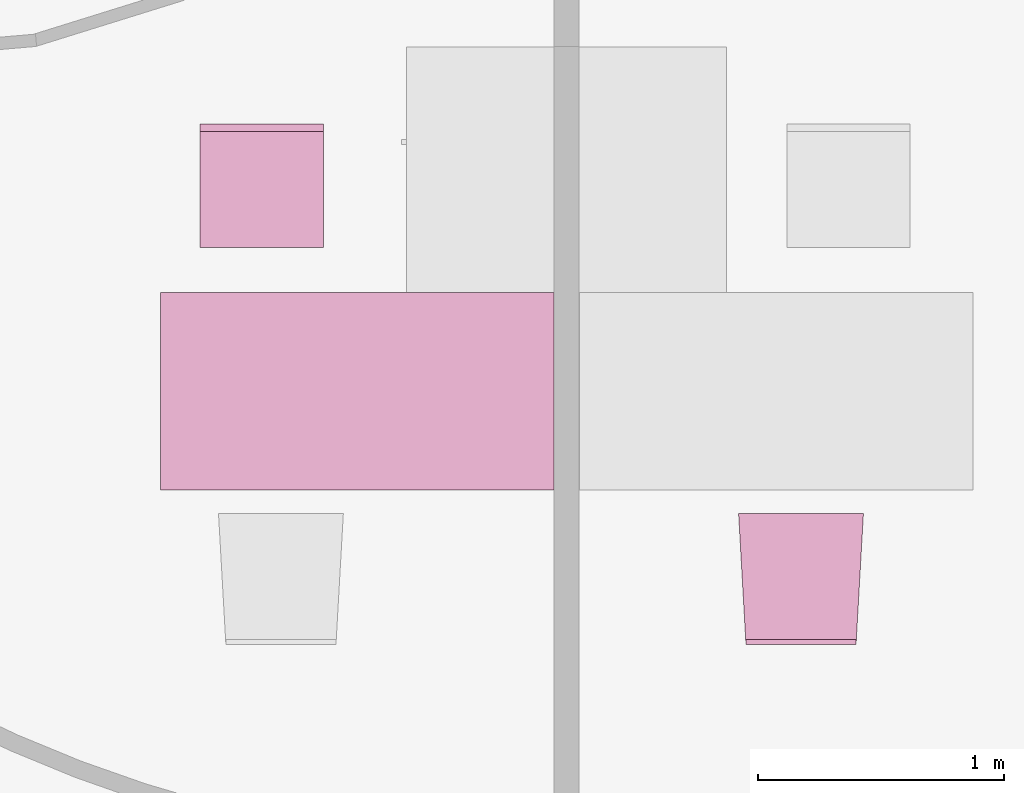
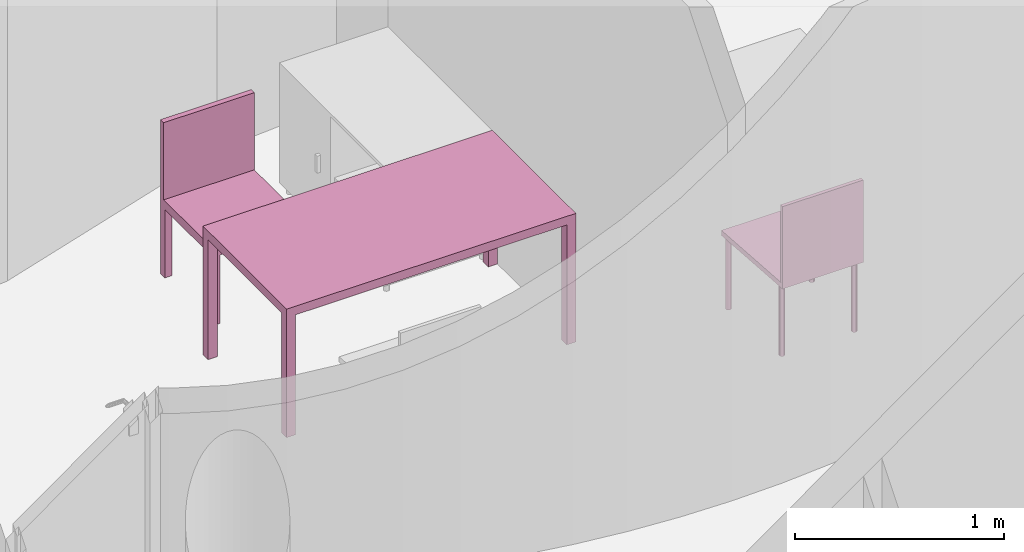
"""IFC4 building model written with IfcOpenShell, lengths in metres."""

import ifcopenshell
import ifcopenshell.guid

model = None  # the IFC model being written
_history = None  # IfcOwnerHistory: only IFC2X3 demands one
_inside = {}  # id of a spatial element -> (the spatial element, [elements in it])
_under = {}  # id of a project, library or spatial element -> (it, [spatial elements below it])
_declared = {}  # id of a project -> (the project, [libraries it declares])
_typed = {}  # id of a type object -> (the type object, [elements of that type])
_made_of = {}  # id of a material, layer set ... -> (it, [elements and type objects made of it])


def new_model(schema):
    """Start an empty IFC model of exactly this schema.

    Asked for "IFC4X3", IfcOpenShell would pick the latest addendum, in which some entities
    have other attributes; the version numbers below select the first issue.
    IFC2X3 requires an IfcOwnerHistory on every rooted entity: one is made here for all.
    """
    global model, _history
    if schema == "IFC4X3":
        model = ifcopenshell.file(schema_version=(4, 3, 0, 0))
    else:
        model = ifcopenshell.file(schema=schema)
    _inside.clear()
    _under.clear()
    _declared.clear()
    _typed.clear()
    _made_of.clear()
    _history = None
    if model.schema == "IFC2X3":
        org = make("IfcOrganization", Name="unknown")
        user = make(
            "IfcPersonAndOrganization",
            ThePerson=make("IfcPerson", FamilyName="unknown"),
            TheOrganization=org,
        )
        app = make(
            "IfcApplication",
            ApplicationDeveloper=org,
            Version="unknown",
            ApplicationFullName="unknown",
            ApplicationIdentifier="unknown",
        )
        _history = make(
            "IfcOwnerHistory",
            OwningUser=user,
            OwningApplication=app,
            ChangeAction="ADDED",
            CreationDate=0,
        )
    return model


def make(cls, **values):
    """One entity of the class cls with the attributes given. An attribute that is None is left unset."""
    return model.create_entity(
        cls, **{name: value for name, value in values.items() if value is not None}
    )


def entity(cls, *values):
    """Any entity or typed value of the class cls, its attributes in the order of the schema. None: left unset."""
    e = model.create_entity(cls)
    for i, value in enumerate(values):
        if value is not None:
            e[i] = value
    return e


def rooted(cls, **values):
    """An entity with a GlobalId (a new one), such as an element, a storey or a relation."""
    return make(cls, GlobalId=ifcopenshell.guid.new(), OwnerHistory=_history, **values)


def si_unit(unit_type, name, prefix=None):
    """IfcSIUnit, for example si_unit("LENGTHUNIT", "METRE", prefix="MILLI")."""
    return make("IfcSIUnit", UnitType=unit_type, Prefix=prefix, Name=name)


def converted_unit(unit_type, name, factor, base, dimensions=None, offset=None):
    """IfcConversionBasedUnit, such as the inch: factor (a typed value) times the base unit."""
    return make(
        "IfcConversionBasedUnit"
        if offset is None
        else "IfcConversionBasedUnitWithOffset",
        ConversionOffset=offset,
        Dimensions=None
        if dimensions is None
        else entity("IfcDimensionalExponents", *dimensions),
        UnitType=unit_type,
        Name=name,
        ConversionFactor=make(
            "IfcMeasureWithUnit", ValueComponent=factor, UnitComponent=base
        ),
    )


def derived_unit(unit_type, elements):
    """IfcDerivedUnit: a product of units, each with its exponent."""
    return make(
        "IfcDerivedUnit",
        Elements=[
            make("IfcDerivedUnitElement", Unit=unit, Exponent=power)
            for unit, power in elements
        ],
        UnitType=unit_type,
    )


def assignment(units):
    """IfcUnitAssignment: the units of a project."""
    return None if units is None else make("IfcUnitAssignment", Units=units)


def point(xyz):
    """IfcCartesianPoint."""
    return None if xyz is None else make("IfcCartesianPoint", Coordinates=xyz)


def direction(xyz):
    """IfcDirection."""
    return None if xyz is None else make("IfcDirection", DirectionRatios=xyz)


def frame(location, z_axis=None, x_axis=None):
    """IfcAxis2Placement3D, a coordinate frame: its origin and axes. An axis left out is left unset."""
    return make(
        "IfcAxis2Placement3D",
        Location=point(location),
        Axis=direction(z_axis),
        RefDirection=direction(x_axis),
    )


def origin():
    """The frame at (0, 0, 0) with its axes left unset."""
    return frame((0.0, 0.0, 0.0))


def place(relative_to, where):
    """IfcLocalPlacement: puts the frame where relative to a parent placement (None: the world)."""
    return make(
        "IfcLocalPlacement", PlacementRelTo=relative_to, RelativePlacement=where
    )


def context(
    kind, dimensions, precision=None, world=None, true_north=None, identifier=None
):
    """IfcGeometricRepresentationContext, for example the 3D "Model" context."""
    return make(
        "IfcGeometricRepresentationContext",
        ContextIdentifier=identifier,
        ContextType=kind,
        CoordinateSpaceDimension=dimensions,
        Precision=precision,
        WorldCoordinateSystem=world,
        TrueNorth=true_north,
    )


def subcontext(parent, identifier, kind, view, scale=None):
    """IfcGeometricRepresentationSubContext, for example "Body" below "Model"."""
    return make(
        "IfcGeometricRepresentationSubContext",
        ContextIdentifier=identifier,
        ContextType=kind,
        ParentContext=parent,
        TargetScale=scale,
        TargetView=view,
    )


def project(units=None, contexts=None):
    """IfcProject with its units and contexts."""
    return rooted(
        "IfcProject",
        Name="project",
        RepresentationContexts=contexts,
        UnitsInContext=assignment(units),
    )


def spatial(cls, under=None, at=None, **own):
    """A site, building, storey or space (cls), placed at a placement, below another one or the project."""
    s = rooted(cls, ObjectPlacement=at, **own)
    if under is not None:
        _under.setdefault(under.id(), (under, []))[1].append(s)
    return s


def faces_of(points, faces, orient=None, outer=None):
    """IfcFace entities. A face is a list of loops; a loop is a list of indices into points, from 0.

    orient and outer hold one flag for each loop. By default every Orientation is true, the
    first loop of a face is its IfcFaceOuterBound and the others are IfcFaceBound.
    """
    made = []
    for i, loops in enumerate(faces):
        bounds = []
        for j, loop in enumerate(loops):
            is_outer = j == 0 if outer is None else outer[i][j]
            bounds.append(
                make(
                    "IfcFaceOuterBound" if is_outer else "IfcFaceBound",
                    Bound=make("IfcPolyLoop", Polygon=[points[k] for k in loop]),
                    Orientation=True if orient is None else orient[i][j],
                )
            )
        made.append(make("IfcFace", Bounds=bounds))
    return made


def faceted_brep(points, faces, orient=None, outer=None, voids=None):
    """IfcFacetedBrep: a solid bounded by flat faces; with voids (closed shells), ...WithVoids."""
    shared = [point(p) for p in points]
    hull = make("IfcClosedShell", CfsFaces=faces_of(shared, faces, orient, outer))
    if voids is None:
        return make("IfcFacetedBrep", Outer=hull)
    return make(
        "IfcFacetedBrepWithVoids",
        Outer=hull,
        Voids=[
            make(cls, CfsFaces=faces_of(shared, fs, o, b)) for cls, fs, o, b in voids
        ],
    )


def shape(context_of_items, identifier, shape_type, items):
    """IfcShapeRepresentation: the items that make up one representation, for example the "Body"."""
    return make(
        "IfcShapeRepresentation",
        ContextOfItems=context_of_items,
        RepresentationIdentifier=identifier,
        RepresentationType=shape_type,
        Items=items,
    )


def made_of(thing, what):
    """Note that an element or type object is made of a material, layer set ...; save() writes the relation."""
    if what is not None:
        _made_of.setdefault(what.id(), (what, []))[1].append(thing)
    return thing


def element(
    cls,
    number,
    at=None,
    inside=None,
    cuts=None,
    type_object=None,
    material=None,
    context=None,
    identifier="Body",
    shape_type=None,
    held_by="IfcProductDefinitionShape",
    body=None,
    shapes=None,
    **own,
):
    """One element of the class cls, such as IfcWall. Its Tag is "e" and its number.

    at: its placement. inside: the storey or other place that contains it. cuts: it is an
    opening in that element (IfcRelVoidsElement). A single representation is given by context,
    identifier, shape_type and body (its items); several are given by shapes. held_by: the class
    of the entity that holds the representations. save() writes the other relations.
    """
    e = rooted(cls, Tag="e%d" % number, ObjectPlacement=at, **own)
    if body is not None:
        shapes = [shape(context, identifier, shape_type, body)]
    if shapes is not None:
        e.Representation = make(held_by, Representations=shapes)
    if inside is not None:
        _inside.setdefault(inside.id(), (inside, []))[1].append(e)
    if cuts is not None:
        rooted(
            "IfcRelVoidsElement", RelatingBuildingElement=cuts, RelatedOpeningElement=e
        )
    if type_object is not None:
        _typed.setdefault(type_object.id(), (type_object, []))[1].append(e)
    return made_of(e, material)


def aggregate(whole, parts):
    """IfcRelAggregates: a whole, such as a stair, and the parts it consists of."""
    return rooted("IfcRelAggregates", RelatingObject=whole, RelatedObjects=parts)


def save(model, path):
    """Write the relations noted so far, then the file.

    IfcRelAggregates (storeys below a building ...), IfcRelContainedInSpatialStructure (elements
    in a storey), IfcRelDefinesByType, IfcRelAssociatesMaterial and IfcRelDeclares: one each for
    every whole, place, type object, material and project.
    """
    for whole, parts in _under.values():
        aggregate(whole, parts)
    for where, things in _inside.values():
        rooted(
            "IfcRelContainedInSpatialStructure",
            RelatedElements=things,
            RelatingStructure=where,
        )
    for kind, things in _typed.values():
        rooted("IfcRelDefinesByType", RelatedObjects=things, RelatingType=kind)
    for what, things in _made_of.values():
        rooted("IfcRelAssociatesMaterial", RelatedObjects=things, RelatingMaterial=what)
    for by, libraries in _declared.values():
        rooted("IfcRelDeclares", RelatingContext=by, RelatedDefinitions=libraries)
    model.write(path)


model = new_model("IFC4")

# Units and contexts
model_context = context("Model", 3, precision=1e-05, world=origin())
body_context = subcontext(model_context, "Body", "Model", "MODEL_VIEW")
ifc_project = project(units=[si_unit("LENGTHUNIT", "METRE"), si_unit("AREAUNIT", "SQUARE_METRE"), si_unit("VOLUMEUNIT", "CUBIC_METRE"), si_unit("MASSUNIT", "GRAM", prefix="KILO"), converted_unit("PLANEANGLEUNIT", "DEGREE", entity("IfcPlaneAngleMeasure", 0.0174532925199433), si_unit("PLANEANGLEUNIT", "RADIAN"), dimensions=[0, 0, 0, 0, 0, 0, 0]), derived_unit("THERMALTRANSMITTANCEUNIT", [(si_unit("POWERUNIT", "WATT"), 1), (si_unit("THERMODYNAMICTEMPERATUREUNIT", "KELVIN"), -1), (si_unit("LENGTHUNIT", "METRE"), -2)]), derived_unit("VOLUMETRICFLOWRATEUNIT", [(si_unit("LENGTHUNIT", "METRE"), 3), (converted_unit("TIMEUNIT", "hour", entity("IfcTimeMeasure", 3600.0), si_unit("TIMEUNIT", "SECOND"), dimensions=[0, 0, 1, 0, 0, 0, 0]), -1), (si_unit("LENGTHUNIT", "METRE"), -1)])], contexts=[model_context])

# Building, storeys
building_placement = place(None, origin())
building = spatial("IfcBuilding", under=ifc_project, at=building_placement, Name="HABITATGE PLURIFAMILIAR", CompositionType="ELEMENT")
storey_1_placement = place(building_placement, frame((0.0, 0.0, 6.25)))
storey_1 = spatial("IfcBuildingStorey", under=building, at=storey_1_placement, Name="PLANTA PRIMERA", CompositionType="ELEMENT", Elevation=6.25)
storey_2_placement = place(storey_1_placement, frame((0.0, 0.0, 3.35)))
storey_2 = spatial("IfcBuildingStorey", under=storey_1, at=storey_2_placement, Name="NOU", CompositionType="PARTIAL")

# Furniture
furniture_1_placement = place(storey_2_placement, frame((414.054625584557, 18.3927228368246, -3.35114412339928)))
element("IfcFurniture", 1, at=furniture_1_placement, inside=storey_2, Name="Cadira confient_P1", context=body_context, shape_type="Brep", body=[
    faceted_brep([(0.00928777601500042, 0.507575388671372, 0.0), (0.00950344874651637, 0.504980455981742, 0.0), (0.0101664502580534, 0.502462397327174, 0.0), (0.0112566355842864, 0.500097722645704, 0.0), (0.0127408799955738, 0.497958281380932, 0.0), (0.01457408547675, 0.496109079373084, 0.0), (0.0167005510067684, 0.494606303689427, 0.0), (0.0190556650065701, 0.493495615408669, 0.0), (0.021567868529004, 0.492810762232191, 0.0), (0.0241608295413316, 0.492572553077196, 0.0), (0.0267557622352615, 0.492788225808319, 0.0), (0.0292738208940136, 0.493451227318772, 0.0), (0.0316384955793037, 0.49454141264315, 0.0), (0.0337779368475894, 0.496025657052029, 0.0), (0.0356271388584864, 0.497858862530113, 0.0), (0.0371299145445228, 0.499985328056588, 0.0), (0.0382406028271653, 0.502340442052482, 0.0), (0.0389254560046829, 0.504852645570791, 0.0), (0.0391636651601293, 0.507445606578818, 0.0), (0.0389479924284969, 0.510040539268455, 0.0), (0.0382849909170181, 0.512558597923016, 0.0), (0.0371948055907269, 0.514923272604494, 0.0), (0.0357105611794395, 0.517062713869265, 0.0), (0.0338773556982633, 0.518911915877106, 0.0), (0.0317508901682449, 0.520414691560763, 0.0), (0.0293957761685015, 0.521525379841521, 0.0), (0.0268835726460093, 0.522210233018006, 0.0), (0.0242906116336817, 0.522448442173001, 0.0), (0.0216956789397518, 0.522232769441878, 0.0), (0.0191776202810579, 0.521569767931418, 0.0), (0.0168129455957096, 0.52047958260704, 0.0), (0.0146735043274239, 0.518995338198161, 0.0), (0.0128243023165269, 0.517162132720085, 0.0), (0.0113215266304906, 0.51503566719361, 0.0), (0.0102108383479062, 0.512680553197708, 0.0), (0.00952598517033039, 0.510168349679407, 0.0), (0.00928777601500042, 0.507575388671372, 0.448281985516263), (0.00952598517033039, 0.510168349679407, 0.448281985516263), (0.0102108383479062, 0.512680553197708, 0.448281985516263), (0.0113215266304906, 0.51503566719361, 0.448281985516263), (0.0128243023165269, 0.517162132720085, 0.448281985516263), (0.0146735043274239, 0.518995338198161, 0.448281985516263), (0.0168129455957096, 0.52047958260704, 0.448281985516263), (0.0191776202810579, 0.521569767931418, 0.448281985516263), (0.0216956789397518, 0.522232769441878, 0.448281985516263), (0.0242906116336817, 0.522448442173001, 0.448281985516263), (0.0268835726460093, 0.522210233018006, 0.448281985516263), (0.0293957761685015, 0.521525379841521, 0.448281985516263), (0.0317508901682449, 0.520414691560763, 0.448281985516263), (0.0338773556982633, 0.518911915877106, 0.448281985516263), (0.0357105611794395, 0.517062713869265, 0.448281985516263), (0.0371948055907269, 0.514923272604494, 0.448281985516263), (0.0382849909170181, 0.512558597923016, 0.448281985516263), (0.0389479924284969, 0.510040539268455, 0.448281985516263), (0.0391636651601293, 0.507445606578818, 0.448281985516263), (0.0389254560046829, 0.504852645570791, 0.448281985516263), (0.0382406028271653, 0.502340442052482, 0.448281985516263), (0.0371299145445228, 0.499985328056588, 0.448281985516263), (0.0356271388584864, 0.497858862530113, 0.448281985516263), (0.0337779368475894, 0.496025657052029, 0.448281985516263), (0.0316384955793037, 0.49454141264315, 0.448281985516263), (0.0292738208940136, 0.493451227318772, 0.448281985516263), (0.0267557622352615, 0.492788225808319, 0.448281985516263), (0.0241608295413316, 0.492572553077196, 0.448281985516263), (0.021567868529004, 0.492810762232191, 0.448281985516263), (0.0190556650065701, 0.493495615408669, 0.448281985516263), (0.0167005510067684, 0.494606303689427, 0.448281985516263), (0.01457408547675, 0.496109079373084, 0.448281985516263), (0.0127408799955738, 0.497958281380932, 0.448281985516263), (0.0112566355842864, 0.500097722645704, 0.448281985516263), (0.0101664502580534, 0.502462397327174, 0.448281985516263), (0.00950344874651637, 0.504980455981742, 0.448281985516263)], [[[0, 1, 2, 3, 4, 5, 6, 7, 8, 9, 10, 11, 12, 13, 14, 15, 16, 17, 18, 19, 20, 21, 22, 23, 24, 25, 26, 27, 28, 29, 30, 31, 32, 33, 34, 35]], [[36, 37, 38, 39, 40, 41, 42, 43, 44, 45, 46, 47, 48, 49, 50, 51, 52, 53, 54, 55, 56, 57, 58, 59, 60, 61, 62, 63, 64, 65, 66, 67, 68, 69, 70, 71]], [[1, 0, 36, 71]], [[2, 1, 71, 70]], [[3, 2, 70, 69]], [[4, 3, 69, 68]], [[5, 4, 68, 67]], [[6, 5, 67, 66]], [[7, 6, 66, 65]], [[8, 7, 65, 64]], [[9, 8, 64, 63]], [[10, 9, 63, 62]], [[11, 10, 62, 61]], [[12, 11, 61, 60]], [[13, 12, 60, 59]], [[14, 13, 59, 58]], [[15, 14, 58, 57]], [[16, 15, 57, 56]], [[17, 16, 56, 55]], [[18, 17, 55, 54]], [[19, 18, 54, 53]], [[20, 19, 53, 52]], [[21, 20, 52, 51]], [[22, 21, 51, 50]], [[23, 22, 50, 49]], [[24, 23, 49, 48]], [[25, 24, 48, 47]], [[26, 25, 47, 46]], [[27, 26, 46, 45]], [[28, 27, 45, 44]], [[29, 28, 44, 43]], [[30, 29, 43, 42]], [[31, 30, 42, 41]], [[32, 31, 41, 40]], [[33, 32, 40, 39]], [[34, 33, 39, 38]], [[35, 34, 38, 37]], [[0, 35, 37, 36]]], orient=[[False], [False], [False], [False], [False], [False], [False], [False], [False], [False], [False], [False], [False], [False], [False], [False], [False], [False], [False], [False], [False], [False], [False], [False], [False], [False], [False], [False], [False], [False], [False], [False], [False], [False], [False], [False], [False], [False]]),
    faceted_brep([(0.0369257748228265, 0.0451683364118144, 0.0), (0.0371414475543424, 0.0425734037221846, 0.0), (0.0378044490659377, 0.0400553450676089, 0.0), (0.0388946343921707, 0.0376906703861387, 0.0), (0.0403788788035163, 0.0355512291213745, 0.0), (0.0422120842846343, 0.0337020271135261, 0.0), (0.0443385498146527, 0.032199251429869, 0.0), (0.0466936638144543, 0.031088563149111, 0.0), (0.0492058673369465, 0.0304037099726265, 0.0), (0.0517988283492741, 0.0301655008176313, 0.0), (0.0543937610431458, 0.0303811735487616, 0.0), (0.0569118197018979, 0.0310441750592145, 0.0), (0.0592764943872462, 0.0321343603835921, 0.0), (0.0614159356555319, 0.0336186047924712, 0.0), (0.0632651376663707, 0.0354518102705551, 0.0), (0.0647679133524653, 0.0375782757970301, 0.0), (0.0658786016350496, 0.0399333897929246, 0.0), (0.0665634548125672, 0.0424455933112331, 0.0), (0.0668016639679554, 0.0450385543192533, 0.0), (0.0665859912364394, 0.0476334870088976, 0.0), (0.0659229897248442, 0.0501515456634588, 0.0), (0.0648328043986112, 0.052516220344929, 0.0), (0.0633485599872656, 0.0546556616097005, 0.0), (0.0615153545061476, 0.0565048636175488, 0.0), (0.0593888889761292, 0.0580076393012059, 0.0), (0.0570337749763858, 0.059118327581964, 0.0), (0.0545215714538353, 0.0598031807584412, 0.0), (0.051928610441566, 0.0600413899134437, 0.0), (0.0493336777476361, 0.0598257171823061, 0.0), (0.0468156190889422, 0.0591627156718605, 0.0), (0.0444509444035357, 0.0580725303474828, 0.0), (0.04231150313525, 0.0565882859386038, 0.0), (0.0404623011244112, 0.0547550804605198, 0.0), (0.0389595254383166, 0.0526286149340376, 0.0), (0.0378488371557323, 0.0502735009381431, 0.0), (0.0371639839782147, 0.0477612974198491, 0.0), (0.0369257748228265, 0.0451683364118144, 0.448281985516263), (0.0371639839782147, 0.0477612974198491, 0.448281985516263), (0.0378488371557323, 0.0502735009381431, 0.448281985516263), (0.0389595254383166, 0.0526286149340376, 0.448281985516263), (0.0404623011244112, 0.0547550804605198, 0.448281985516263), (0.04231150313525, 0.0565882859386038, 0.448281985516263), (0.0444509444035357, 0.0580725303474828, 0.448281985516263), (0.0468156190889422, 0.0591627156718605, 0.448281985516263), (0.0493336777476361, 0.0598257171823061, 0.448281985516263), (0.051928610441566, 0.0600413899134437, 0.448281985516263), (0.0545215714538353, 0.0598031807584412, 0.448281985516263), (0.0570337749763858, 0.059118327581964, 0.448281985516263), (0.0593888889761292, 0.0580076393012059, 0.448281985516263), (0.0615153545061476, 0.0565048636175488, 0.448281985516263), (0.0633485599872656, 0.0546556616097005, 0.448281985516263), (0.0648328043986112, 0.052516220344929, 0.448281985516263), (0.0659229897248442, 0.0501515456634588, 0.448281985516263), (0.0665859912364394, 0.0476334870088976, 0.448281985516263), (0.0668016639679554, 0.0450385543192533, 0.448281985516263), (0.0665634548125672, 0.0424455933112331, 0.448281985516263), (0.0658786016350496, 0.0399333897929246, 0.448281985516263), (0.0647679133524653, 0.0375782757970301, 0.448281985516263), (0.0632651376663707, 0.0354518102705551, 0.448281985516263), (0.0614159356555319, 0.0336186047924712, 0.448281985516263), (0.0592764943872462, 0.0321343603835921, 0.448281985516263), (0.0569118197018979, 0.0310441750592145, 0.448281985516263), (0.0543937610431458, 0.0303811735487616, 0.448281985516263), (0.0517988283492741, 0.0301655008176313, 0.448281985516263), (0.0492058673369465, 0.0304037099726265, 0.448281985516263), (0.0466936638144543, 0.031088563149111, 0.448281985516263), (0.0443385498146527, 0.032199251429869, 0.448281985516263), (0.0422120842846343, 0.0337020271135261, 0.448281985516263), (0.0403788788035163, 0.0355512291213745, 0.448281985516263), (0.0388946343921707, 0.0376906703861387, 0.448281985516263), (0.0378044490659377, 0.0400553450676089, 0.448281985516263), (0.0371414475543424, 0.0425734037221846, 0.448281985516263)], [[[0, 1, 2, 3, 4, 5, 6, 7, 8, 9, 10, 11, 12, 13, 14, 15, 16, 17, 18, 19, 20, 21, 22, 23, 24, 25, 26, 27, 28, 29, 30, 31, 32, 33, 34, 35]], [[36, 37, 38, 39, 40, 41, 42, 43, 44, 45, 46, 47, 48, 49, 50, 51, 52, 53, 54, 55, 56, 57, 58, 59, 60, 61, 62, 63, 64, 65, 66, 67, 68, 69, 70, 71]], [[1, 0, 36, 71]], [[2, 1, 71, 70]], [[3, 2, 70, 69]], [[4, 3, 69, 68]], [[5, 4, 68, 67]], [[6, 5, 67, 66]], [[7, 6, 66, 65]], [[8, 7, 65, 64]], [[9, 8, 64, 63]], [[10, 9, 63, 62]], [[11, 10, 62, 61]], [[12, 11, 61, 60]], [[13, 12, 60, 59]], [[14, 13, 59, 58]], [[15, 14, 58, 57]], [[16, 15, 57, 56]], [[17, 16, 56, 55]], [[18, 17, 55, 54]], [[19, 18, 54, 53]], [[20, 19, 53, 52]], [[21, 20, 52, 51]], [[22, 21, 51, 50]], [[23, 22, 50, 49]], [[24, 23, 49, 48]], [[25, 24, 48, 47]], [[26, 25, 47, 46]], [[27, 26, 46, 45]], [[28, 27, 45, 44]], [[29, 28, 44, 43]], [[30, 29, 43, 42]], [[31, 30, 42, 41]], [[32, 31, 41, 40]], [[33, 32, 40, 39]], [[34, 33, 39, 38]], [[35, 34, 38, 37]], [[0, 35, 37, 36]]], orient=[[False], [False], [False], [False], [False], [False], [False], [False], [False], [False], [False], [False], [False], [False], [False], [False], [False], [False], [False], [False], [False], [False], [False], [False], [False], [False], [False], [False], [False], [False], [False], [False], [False], [False], [False], [False], [False], [False]]),
    faceted_brep([(0.469287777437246, 0.507575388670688, 0.0), (0.469503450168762, 0.504980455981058, 0.0), (0.470166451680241, 0.50246239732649, 0.0), (0.471256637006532, 0.50009772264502, 0.0), (0.47274088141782, 0.497958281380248, 0.0), (0.474574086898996, 0.4961090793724, 0.0), (0.476700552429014, 0.494606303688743, 0.0), (0.479055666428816, 0.493495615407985, 0.0), (0.48156786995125, 0.492810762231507, 0.0), (0.484160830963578, 0.492572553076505, 0.0), (0.486755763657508, 0.492788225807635, 0.0), (0.48927382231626, 0.493451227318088, 0.0), (0.49163849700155, 0.494541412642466, 0.0), (0.493777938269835, 0.496025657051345, 0.0), (0.495627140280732, 0.497858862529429, 0.0), (0.497129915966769, 0.499985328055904, 0.0), (0.498240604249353, 0.502340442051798, 0.0), (0.498925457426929, 0.504852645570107, 0.0), (0.499163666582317, 0.507445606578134, 0.0), (0.498947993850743, 0.510040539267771, 0.0), (0.498284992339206, 0.512558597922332, 0.0), (0.497194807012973, 0.51492327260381, 0.0), (0.495710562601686, 0.517062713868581, 0.0), (0.493877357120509, 0.518911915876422, 0.0), (0.491750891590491, 0.52041469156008, 0.0), (0.489395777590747, 0.521525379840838, 0.0), (0.486883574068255, 0.522210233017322, 0.0), (0.484290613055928, 0.522448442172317, 0.0), (0.481695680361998, 0.522232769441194, 0.0), (0.479177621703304, 0.521569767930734, 0.0), (0.476812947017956, 0.520479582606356, 0.0), (0.47467350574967, 0.518995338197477, 0.0), (0.472824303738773, 0.517162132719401, 0.0), (0.471321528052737, 0.515035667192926, 0.0), (0.470210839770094, 0.512680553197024, 0.0), (0.469525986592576, 0.510168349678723, 0.0), (0.469287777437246, 0.507575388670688, 0.448281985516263), (0.469525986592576, 0.510168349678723, 0.448281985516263), (0.470210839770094, 0.512680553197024, 0.448281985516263), (0.471321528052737, 0.515035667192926, 0.448281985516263), (0.472824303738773, 0.517162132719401, 0.448281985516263), (0.47467350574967, 0.518995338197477, 0.448281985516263), (0.476812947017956, 0.520479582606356, 0.448281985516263), (0.479177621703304, 0.521569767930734, 0.448281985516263), (0.481695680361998, 0.522232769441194, 0.448281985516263), (0.484290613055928, 0.522448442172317, 0.448281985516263), (0.486883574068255, 0.522210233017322, 0.448281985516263), (0.489395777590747, 0.521525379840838, 0.448281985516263), (0.491750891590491, 0.52041469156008, 0.448281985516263), (0.493877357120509, 0.518911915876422, 0.448281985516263), (0.495710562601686, 0.517062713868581, 0.448281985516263), (0.497194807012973, 0.51492327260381, 0.448281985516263), (0.498284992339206, 0.512558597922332, 0.448281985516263), (0.498947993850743, 0.510040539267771, 0.448281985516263), (0.499163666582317, 0.507445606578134, 0.448281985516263), (0.498925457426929, 0.504852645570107, 0.448281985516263), (0.498240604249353, 0.502340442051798, 0.448281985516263), (0.497129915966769, 0.499985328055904, 0.448281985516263), (0.495627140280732, 0.497858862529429, 0.448281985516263), (0.493777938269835, 0.496025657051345, 0.448281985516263), (0.49163849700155, 0.494541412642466, 0.448281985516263), (0.48927382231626, 0.493451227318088, 0.448281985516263), (0.486755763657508, 0.492788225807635, 0.448281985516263), (0.484160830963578, 0.492572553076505, 0.448281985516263), (0.48156786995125, 0.492810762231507, 0.448281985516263), (0.479055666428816, 0.493495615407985, 0.448281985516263), (0.476700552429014, 0.494606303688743, 0.448281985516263), (0.474574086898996, 0.4961090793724, 0.448281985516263), (0.47274088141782, 0.497958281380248, 0.448281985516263), (0.471256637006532, 0.50009772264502, 0.448281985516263), (0.470166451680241, 0.50246239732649, 0.448281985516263), (0.469503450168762, 0.504980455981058, 0.448281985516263)], [[[0, 1, 2, 3, 4, 5, 6, 7, 8, 9, 10, 11, 12, 13, 14, 15, 16, 17, 18, 19, 20, 21, 22, 23, 24, 25, 26, 27, 28, 29, 30, 31, 32, 33, 34, 35]], [[36, 37, 38, 39, 40, 41, 42, 43, 44, 45, 46, 47, 48, 49, 50, 51, 52, 53, 54, 55, 56, 57, 58, 59, 60, 61, 62, 63, 64, 65, 66, 67, 68, 69, 70, 71]], [[1, 0, 36, 71]], [[2, 1, 71, 70]], [[3, 2, 70, 69]], [[4, 3, 69, 68]], [[5, 4, 68, 67]], [[6, 5, 67, 66]], [[7, 6, 66, 65]], [[8, 7, 65, 64]], [[9, 8, 64, 63]], [[10, 9, 63, 62]], [[11, 10, 62, 61]], [[12, 11, 61, 60]], [[13, 12, 60, 59]], [[14, 13, 59, 58]], [[15, 14, 58, 57]], [[16, 15, 57, 56]], [[17, 16, 56, 55]], [[18, 17, 55, 54]], [[19, 18, 54, 53]], [[20, 19, 53, 52]], [[21, 20, 52, 51]], [[22, 21, 51, 50]], [[23, 22, 50, 49]], [[24, 23, 49, 48]], [[25, 24, 48, 47]], [[26, 25, 47, 46]], [[27, 26, 46, 45]], [[28, 27, 45, 44]], [[29, 28, 44, 43]], [[30, 29, 43, 42]], [[31, 30, 42, 41]], [[32, 31, 41, 40]], [[33, 32, 40, 39]], [[34, 33, 39, 38]], [[35, 34, 38, 37]], [[0, 35, 37, 36]]], orient=[[False], [False], [False], [False], [False], [False], [False], [False], [False], [False], [False], [False], [False], [False], [False], [False], [False], [False], [False], [False], [False], [False], [False], [False], [False], [False], [False], [False], [False], [False], [False], [False], [False], [False], [False], [False], [False], [False]]),
    faceted_brep([(0.436925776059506, 0.0451683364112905, 0.0), (0.437141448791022, 0.0425734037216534, 0.0), (0.437804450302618, 0.040055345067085, 0.0), (0.438894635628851, 0.0376906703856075, 0.0), (0.440378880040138, 0.0355512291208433, 0.0), (0.442212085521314, 0.033702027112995, 0.0), (0.444338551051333, 0.0321992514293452, 0.0), (0.446693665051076, 0.0310885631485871, 0.0), (0.449205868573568, 0.0304037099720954, 0.0), (0.451798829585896, 0.0301655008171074, 0.0), (0.454393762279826, 0.0303811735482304, 0.0), (0.45691182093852, 0.0310441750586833, 0.0), (0.459276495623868, 0.032134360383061, 0.0), (0.461415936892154, 0.0336186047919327, 0.0), (0.463265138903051, 0.0354518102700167, 0.0), (0.464767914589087, 0.0375782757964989, 0.0), (0.46587860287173, 0.0399333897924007, 0.0), (0.466563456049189, 0.0424455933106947, 0.0), (0.466801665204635, 0.0450385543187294, 0.0), (0.466585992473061, 0.0476334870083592, 0.0), (0.465922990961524, 0.0501515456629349, 0.0), (0.464832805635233, 0.0525162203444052, 0.0), (0.463348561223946, 0.0546556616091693, 0.0), (0.461515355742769, 0.0565048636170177, 0.0), (0.459388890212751, 0.0580076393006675, 0.0), (0.457033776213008, 0.0591183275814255, 0.0), (0.454521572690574, 0.0598031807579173, 0.0), (0.451928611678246, 0.0600413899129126, 0.0), (0.449333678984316, 0.0598257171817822, 0.0), (0.446815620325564, 0.0591627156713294, 0.0), (0.444450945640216, 0.0580725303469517, 0.0), (0.44231150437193, 0.0565882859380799, 0.0), (0.440462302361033, 0.054755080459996, 0.0), (0.438959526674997, 0.0526286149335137, 0.0), (0.437848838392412, 0.0502735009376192, 0.0), (0.437163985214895, 0.047761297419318, 0.0), (0.436925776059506, 0.0451683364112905, 0.448281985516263), (0.437163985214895, 0.047761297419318, 0.448281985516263), (0.437848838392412, 0.0502735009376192, 0.448281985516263), (0.438959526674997, 0.0526286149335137, 0.448281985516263), (0.440462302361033, 0.054755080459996, 0.448281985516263), (0.44231150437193, 0.0565882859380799, 0.448281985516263), (0.444450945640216, 0.0580725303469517, 0.448281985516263), (0.446815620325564, 0.0591627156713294, 0.448281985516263), (0.449333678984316, 0.0598257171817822, 0.448281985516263), (0.451928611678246, 0.0600413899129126, 0.448281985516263), (0.454521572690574, 0.0598031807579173, 0.448281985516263), (0.457033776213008, 0.0591183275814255, 0.448281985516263), (0.459388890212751, 0.0580076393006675, 0.448281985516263), (0.461515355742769, 0.0565048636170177, 0.448281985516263), (0.463348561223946, 0.0546556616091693, 0.448281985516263), (0.464832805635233, 0.0525162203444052, 0.448281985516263), (0.465922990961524, 0.0501515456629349, 0.448281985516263), (0.466585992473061, 0.0476334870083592, 0.448281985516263), (0.466801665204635, 0.0450385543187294, 0.448281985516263), (0.466563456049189, 0.0424455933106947, 0.448281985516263), (0.46587860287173, 0.0399333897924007, 0.448281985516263), (0.464767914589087, 0.0375782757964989, 0.448281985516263), (0.463265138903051, 0.0354518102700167, 0.448281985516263), (0.461415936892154, 0.0336186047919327, 0.448281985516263), (0.459276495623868, 0.032134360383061, 0.448281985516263), (0.45691182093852, 0.0310441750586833, 0.448281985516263), (0.454393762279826, 0.0303811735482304, 0.448281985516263), (0.451798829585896, 0.0301655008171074, 0.448281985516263), (0.449205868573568, 0.0304037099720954, 0.448281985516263), (0.446693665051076, 0.0310885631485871, 0.448281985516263), (0.444338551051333, 0.0321992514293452, 0.448281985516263), (0.442212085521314, 0.033702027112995, 0.448281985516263), (0.440378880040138, 0.0355512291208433, 0.448281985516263), (0.438894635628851, 0.0376906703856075, 0.448281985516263), (0.437804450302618, 0.040055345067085, 0.448281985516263), (0.437141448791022, 0.0425734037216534, 0.448281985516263)], [[[0, 1, 2, 3, 4, 5, 6, 7, 8, 9, 10, 11, 12, 13, 14, 15, 16, 17, 18, 19, 20, 21, 22, 23, 24, 25, 26, 27, 28, 29, 30, 31, 32, 33, 34, 35]], [[36, 37, 38, 39, 40, 41, 42, 43, 44, 45, 46, 47, 48, 49, 50, 51, 52, 53, 54, 55, 56, 57, 58, 59, 60, 61, 62, 63, 64, 65, 66, 67, 68, 69, 70, 71]], [[1, 0, 36, 71]], [[2, 1, 71, 70]], [[3, 2, 70, 69]], [[4, 3, 69, 68]], [[5, 4, 68, 67]], [[6, 5, 67, 66]], [[7, 6, 66, 65]], [[8, 7, 65, 64]], [[9, 8, 64, 63]], [[10, 9, 63, 62]], [[11, 10, 62, 61]], [[12, 11, 61, 60]], [[13, 12, 60, 59]], [[14, 13, 59, 58]], [[15, 14, 58, 57]], [[16, 15, 57, 56]], [[17, 16, 56, 55]], [[18, 17, 55, 54]], [[19, 18, 54, 53]], [[20, 19, 53, 52]], [[21, 20, 52, 51]], [[22, 21, 51, 50]], [[23, 22, 50, 49]], [[24, 23, 49, 48]], [[25, 24, 48, 47]], [[26, 25, 47, 46]], [[27, 26, 46, 45]], [[28, 27, 45, 44]], [[29, 28, 44, 43]], [[30, 29, 43, 42]], [[31, 30, 42, 41]], [[32, 31, 41, 40]], [[33, 32, 40, 39]], [[34, 33, 39, 38]], [[35, 34, 38, 37]], [[0, 35, 37, 36]]], orient=[[False], [False], [False], [False], [False], [False], [False], [False], [False], [False], [False], [False], [False], [False], [False], [False], [False], [False], [False], [False], [False], [False], [False], [False], [False], [False], [False], [False], [False], [False], [False], [False], [False], [False], [False], [False], [False], [False]]),
    faceted_brep([(0.476514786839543, 0.0, 0.418281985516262), (0.506514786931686, 0.532607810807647, 0.418281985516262), (0.0, 0.532607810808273, 0.418281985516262), (0.0300000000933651, 0.0, 0.418281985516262), (0.506514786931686, 0.532607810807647, 0.448281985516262), (0.476514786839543, 0.0, 0.448281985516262), (0.0300000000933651, 0.0, 0.448281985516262), (0.0, 0.532607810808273, 0.448281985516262)], [[[0, 1, 2, 3]], [[4, 5, 6, 7]], [[1, 0, 5, 4]], [[2, 1, 4, 7]], [[3, 2, 7, 6]], [[0, 3, 6, 5]]], orient=[[False], [False], [False], [False], [False], [False]]),
    faceted_brep([(0.476514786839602, 0.02000000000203, 0.448281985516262), (0.0300000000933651, 0.0200000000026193, 0.448281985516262), (0.0300000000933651, 0.0, 0.448281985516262), (0.476514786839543, 0.0, 0.448281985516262), (0.0300000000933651, 0.0200000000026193, 0.898281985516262), (0.476514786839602, 0.02000000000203, 0.898281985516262), (0.476514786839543, 0.0, 0.898281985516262), (0.0300000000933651, 0.0, 0.898281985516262)], [[[0, 1, 2, 3]], [[4, 5, 6, 7]], [[1, 0, 5, 4]], [[2, 1, 4, 7]], [[3, 2, 7, 6]], [[0, 3, 6, 5]]], orient=[[False], [False], [False], [False], [False], [False]]),
])
furniture_2_placement = place(storey_2_placement, frame((411.709662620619, 19.0209258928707, -3.35)))
element("IfcFurniture", 2, at=furniture_2_placement, inside=storey_2, Name="Taula 160X80_P1", context=body_context, shape_type="Brep", body=[
    faceted_brep([(0.05, 0.05, 0.0), (0.0, 0.05, 0.0), (0.0, 0.0, 0.0), (0.05, 0.0, 0.0), (0.05, 0.0, 0.7), (0.0, 0.0, 0.7), (0.0, 0.05, 0.7), (0.05, 0.05, 0.7)], [[[0, 1, 2, 3]], [[4, 5, 6, 7]], [[3, 4, 7, 0]], [[2, 5, 4, 3]], [[1, 6, 5, 2]], [[0, 7, 6, 1]]], orient=[[False], [False], [False], [False], [False], [False]]),
    faceted_brep([(0.05, 0.800069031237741, 0.0), (0.0, 0.800069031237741, 0.0), (0.0, 0.750069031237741, 0.0), (0.05, 0.750069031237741, 0.0), (0.05, 0.750069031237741, 0.7), (0.0, 0.750069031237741, 0.7), (0.0, 0.800069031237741, 0.7), (0.05, 0.800069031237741, 0.7)], [[[0, 1, 2, 3]], [[4, 5, 6, 7]], [[3, 4, 7, 0]], [[2, 5, 4, 3]], [[1, 6, 5, 2]], [[0, 7, 6, 1]]], orient=[[False], [False], [False], [False], [False], [False]]),
    faceted_brep([(1.596945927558, 0.800069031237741, 0.7), (0.0, 0.800069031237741, 0.7), (0.0, 0.0, 0.7), (1.596945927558, 0.0, 0.7), (1.596945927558, 0.0, 0.75), (0.0, 0.0, 0.75), (0.0, 0.800069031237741, 0.75), (1.596945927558, 0.800069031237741, 0.75)], [[[0, 1, 2, 3]], [[4, 5, 6, 7]], [[3, 4, 7, 0]], [[2, 5, 4, 3]], [[1, 6, 5, 2]], [[0, 7, 6, 1]]], orient=[[False], [False], [False], [False], [False], [False]]),
    faceted_brep([(1.596945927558, 0.05, 0.0), (1.546945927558, 0.05, 0.0), (1.546945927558, 0.0, 0.0), (1.596945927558, 0.0, 0.0), (1.596945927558, 0.0, 0.7), (1.546945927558, 0.0, 0.7), (1.546945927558, 0.05, 0.7), (1.596945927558, 0.05, 0.7)], [[[0, 1, 2, 3]], [[4, 5, 6, 7]], [[3, 4, 7, 0]], [[2, 5, 4, 3]], [[1, 6, 5, 2]], [[0, 7, 6, 1]]], orient=[[False], [False], [False], [False], [False], [False]]),
    faceted_brep([(1.596945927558, 0.800069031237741, 0.0), (1.546945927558, 0.800069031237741, 0.0), (1.546945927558, 0.750069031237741, 0.0), (1.596945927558, 0.750069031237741, 0.0), (1.596945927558, 0.750069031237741, 0.7), (1.546945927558, 0.750069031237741, 0.7), (1.546945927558, 0.800069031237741, 0.7), (1.596945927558, 0.800069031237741, 0.7)], [[[0, 1, 2, 3]], [[4, 5, 6, 7]], [[3, 4, 7, 0]], [[2, 5, 4, 3]], [[1, 6, 5, 2]], [[0, 7, 6, 1]]], orient=[[False], [False], [False], [False], [False], [False]]),
])
furniture_3_placement = place(storey_2_placement, frame((411.870170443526, 20.0044831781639, -3.34942958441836)))
element("IfcFurniture", 3, at=furniture_3_placement, inside=storey_2, Name="Cadira d'Oficina_P1", context=body_context, shape_type="Brep", body=[
    faceted_brep([(0.0, 0.0, 0.4), (0.5, 0.0, 0.4), (0.5, 0.500000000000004, 0.4), (0.0, 0.500000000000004, 0.4), (0.0, 0.500000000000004, 0.45), (0.5, 0.500000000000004, 0.45), (0.5, 0.0, 0.45), (0.0, 0.0, 0.45)], [[[0, 1, 2, 3]], [[4, 5, 6, 7]], [[3, 4, 7, 0]], [[2, 5, 4, 3]], [[1, 6, 5, 2]], [[0, 7, 6, 1]]], orient=[[False], [False], [False], [False], [False], [False]]),
    faceted_brep([(0.5, 0.460000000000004, 0.0), (0.5, 0.500000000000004, 0.0), (0.46, 0.500000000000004, 0.0), (0.46, 0.460000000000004, 0.0), (0.46, 0.460000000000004, 0.4), (0.46, 0.500000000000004, 0.4), (0.5, 0.500000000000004, 0.4), (0.5, 0.460000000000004, 0.4)], [[[0, 1, 2, 3]], [[4, 5, 6, 7]], [[3, 4, 7, 0]], [[2, 5, 4, 3]], [[1, 6, 5, 2]], [[0, 7, 6, 1]]], orient=[[False], [False], [False], [False], [False], [False]]),
    faceted_brep([(0.5, 0.0, 0.0), (0.5, 0.04, 0.0), (0.46, 0.04, 0.0), (0.46, 0.0, 0.0), (0.46, 0.0, 0.4), (0.46, 0.04, 0.4), (0.5, 0.04, 0.4), (0.5, 0.0, 0.4)], [[[0, 1, 2, 3]], [[4, 5, 6, 7]], [[3, 4, 7, 0]], [[2, 5, 4, 3]], [[1, 6, 5, 2]], [[0, 7, 6, 1]]], orient=[[False], [False], [False], [False], [False], [False]]),
    faceted_brep([(0.04, 0.460000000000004, 0.0), (0.04, 0.500000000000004, 0.0), (0.0, 0.500000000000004, 0.0), (0.0, 0.460000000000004, 0.0), (0.0, 0.460000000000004, 0.4), (0.0, 0.500000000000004, 0.4), (0.04, 0.500000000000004, 0.4), (0.04, 0.460000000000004, 0.4)], [[[0, 1, 2, 3]], [[4, 5, 6, 7]], [[3, 4, 7, 0]], [[2, 5, 4, 3]], [[1, 6, 5, 2]], [[0, 7, 6, 1]]], orient=[[False], [False], [False], [False], [False], [False]]),
    faceted_brep([(0.04, 0.0, 0.0), (0.04, 0.04, 0.0), (0.0, 0.04, 0.0), (0.0, 0.0, 0.0), (0.0, 0.0, 0.4), (0.0, 0.04, 0.4), (0.04, 0.04, 0.4), (0.04, 0.0, 0.4)], [[[0, 1, 2, 3]], [[4, 5, 6, 7]], [[3, 4, 7, 0]], [[2, 5, 4, 3]], [[1, 6, 5, 2]], [[0, 7, 6, 1]]], orient=[[False], [False], [False], [False], [False], [False]]),
    faceted_brep([(0.5, 0.470000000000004, 0.45), (0.5, 0.500000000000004, 0.45), (0.0, 0.500000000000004, 0.45), (0.0, 0.470000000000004, 0.45), (0.0, 0.470000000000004, 0.9), (0.0, 0.500000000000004, 0.9), (0.5, 0.500000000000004, 0.9), (0.5, 0.470000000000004, 0.9)], [[[0, 1, 2, 3]], [[4, 5, 6, 7]], [[3, 4, 7, 0]], [[2, 5, 4, 3]], [[1, 6, 5, 2]], [[0, 7, 6, 1]]], orient=[[False], [False], [False], [False], [False], [False]]),
])

save(model, "model.ifc")
